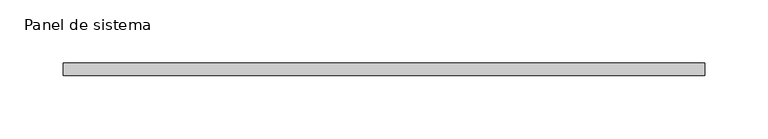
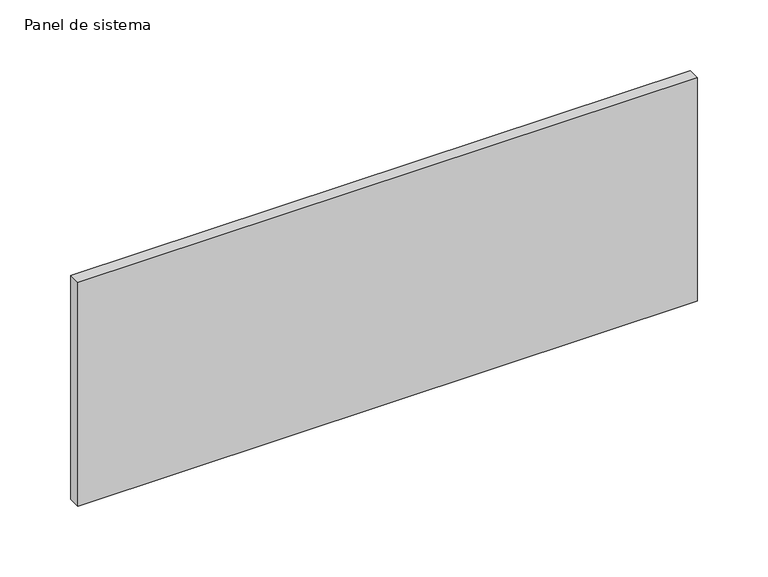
"""IFC4 building model written with IfcOpenShell, lengths in millimetres: plate geometry, Panel de sistema : Acristalado Superor."""

from ifc_helpers import new_model, si_unit, origin, origin_with_axes, place, context, project, spatial, polyline, outline, extrude, source, transform, mapped, element, save


def panel_de_sistema_d2450c0d(model_context):
    return source(origin(), model_context, "Body", "SweptSolid", [
        extrude(outline(polyline([(253.525, -25.0), (-253.525, -25.0), (-253.525, -15.0), (253.525, -15.0), (253.525, -25.0)])), origin_with_axes(), (0.0, 0.0, 1.0), 193.5064249),
    ])


if __name__ == "__main__":
    model = new_model("IFC4")
    model_context = context("Model", 3, world=origin())
    ifc_project = project(units=[si_unit("LENGTHUNIT", "METRE", prefix="MILLI")], contexts=[model_context])
    site = spatial("IfcSite", under=ifc_project)
    building = spatial("IfcBuilding", under=site)
    placement = place(None, origin())
    panel_de_sistema_shape = panel_de_sistema_d2450c0d(model_context)
    element("IfcPlate", 1, ObjectType="Panel de sistema : Acristalado Superor", at=placement, inside=building, context=model_context, shape_type="MappedRepresentation", body=[
        mapped(panel_de_sistema_shape, transform((0.0, 0.0, 0.0), x_axis=(1.0, 0.0, 0.0), y_axis=(0.0, 1.0, 0.0), z_axis=(0.0, 0.0, 1.0))),
    ])
    save(model, "model.ifc")
